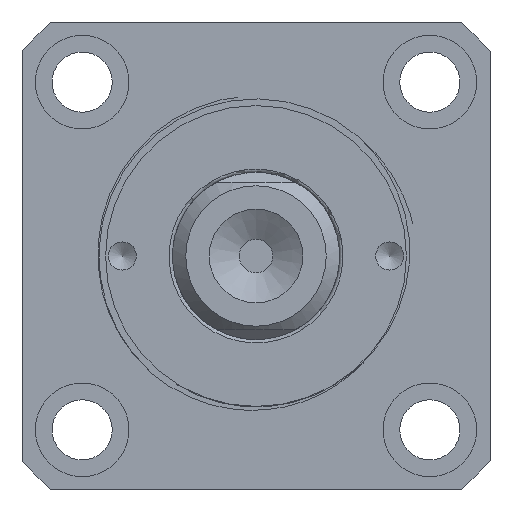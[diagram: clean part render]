
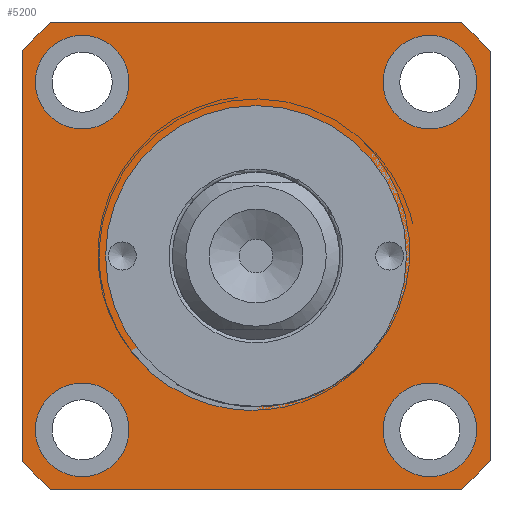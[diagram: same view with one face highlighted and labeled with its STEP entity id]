
A CAD part, front view. The second image highlights one B-rep face of the part: STEP entity #5200.
In plain terms, the highlighted planar face has unit normal (0, -1, 0).
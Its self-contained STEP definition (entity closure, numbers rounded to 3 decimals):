
#2544=PLANE('',#10564);
#3168=LINE('',#12718,#3934);
#3174=LINE('',#12946,#3940);
#3178=LINE('',#12955,#3944);
#3182=LINE('',#12964,#3948);
#3934=VECTOR('',#10988,1.);
#3940=VECTOR('',#11118,1.);
#3944=VECTOR('',#11124,1.);
#3948=VECTOR('',#11130,1.);
#5200=ADVANCED_FACE('',(#5688,#5689,#5690,#5691,#5692,#5693),#2544,.F.);
#5688=FACE_BOUND('',#5892,.T.);
#5689=FACE_BOUND('',#5893,.T.);
#5690=FACE_BOUND('',#5894,.T.);
#5691=FACE_BOUND('',#5895,.T.);
#5692=FACE_BOUND('',#5896,.T.);
#5693=FACE_BOUND('',#5897,.T.);
#5892=EDGE_LOOP('',(#6488));
#5893=EDGE_LOOP('',(#6489));
#5894=EDGE_LOOP('',(#6490));
#5895=EDGE_LOOP('',(#6491));
#5896=EDGE_LOOP('',(#6492));
#5897=EDGE_LOOP('',(#6493,#6494,#6495,#6496,#6497,#6498,#6499,#6500));
#6488=ORIENTED_EDGE('',*,*,#9322,.F.);
#6489=ORIENTED_EDGE('',*,*,#9332,.F.);
#6490=ORIENTED_EDGE('',*,*,#9334,.F.);
#6491=ORIENTED_EDGE('',*,*,#9336,.F.);
#6492=ORIENTED_EDGE('',*,*,#9338,.F.);
#6493=ORIENTED_EDGE('',*,*,#9364,.F.);
#6494=ORIENTED_EDGE('',*,*,#9351,.F.);
#6495=ORIENTED_EDGE('',*,*,#9365,.F.);
#6496=ORIENTED_EDGE('',*,*,#9303,.F.);
#6497=ORIENTED_EDGE('',*,*,#9366,.F.);
#6498=ORIENTED_EDGE('',*,*,#9359,.F.);
#6499=ORIENTED_EDGE('',*,*,#9367,.T.);
#6500=ORIENTED_EDGE('',*,*,#9355,.F.);
#8542=VERTEX_POINT('',#12713);
#8544=VERTEX_POINT('',#12717);
#8562=VERTEX_POINT('',#12875);
#8572=VERTEX_POINT('',#12900);
#8574=VERTEX_POINT('',#12905);
#8576=VERTEX_POINT('',#12910);
#8578=VERTEX_POINT('',#12915);
#8589=VERTEX_POINT('',#12941);
#8591=VERTEX_POINT('',#12945);
#8593=VERTEX_POINT('',#12950);
#8595=VERTEX_POINT('',#12954);
#8597=VERTEX_POINT('',#12959);
#8599=VERTEX_POINT('',#12963);
#9303=EDGE_CURVE('',#8544,#8542,#3168,.T.);
#9322=EDGE_CURVE('',#8562,#8562,#10383,.T.);
#9332=EDGE_CURVE('',#8572,#8572,#10393,.T.);
#9334=EDGE_CURVE('',#8574,#8574,#10395,.T.);
#9336=EDGE_CURVE('',#8576,#8576,#10397,.T.);
#9338=EDGE_CURVE('',#8578,#8578,#10399,.T.);
#9351=EDGE_CURVE('',#8591,#8589,#3174,.T.);
#9355=EDGE_CURVE('',#8595,#8593,#3178,.T.);
#9359=EDGE_CURVE('',#8599,#8597,#3182,.T.);
#9364=EDGE_CURVE('',#8589,#8595,#10413,.T.);
#9365=EDGE_CURVE('',#8542,#8591,#10414,.T.);
#9366=EDGE_CURVE('',#8597,#8544,#10415,.T.);
#9367=EDGE_CURVE('',#8599,#8593,#10416,.T.);
#10383=CIRCLE('',#10513,22.5);
#10393=CIRCLE('',#10528,7.);
#10395=CIRCLE('',#10531,7.);
#10397=CIRCLE('',#10534,7.);
#10399=CIRCLE('',#10537,7.);
#10413=CIRCLE('',#10560,46.5);
#10414=CIRCLE('',#10561,46.5);
#10415=CIRCLE('',#10562,46.5);
#10416=CIRCLE('',#10563,46.5);
#10513=AXIS2_PLACEMENT_3D('',#12874,#11037,#11038);
#10528=AXIS2_PLACEMENT_3D('',#12899,#11067,#11068);
#10531=AXIS2_PLACEMENT_3D('',#12904,#11073,#11074);
#10534=AXIS2_PLACEMENT_3D('',#12909,#11079,#11080);
#10537=AXIS2_PLACEMENT_3D('',#12914,#11085,#11086);
#10560=AXIS2_PLACEMENT_3D('',#12971,#11143,#11144);
#10561=AXIS2_PLACEMENT_3D('',#12972,#11145,#11146);
#10562=AXIS2_PLACEMENT_3D('',#12973,#11147,#11148);
#10563=AXIS2_PLACEMENT_3D('',#12974,#11149,#11150);
#10564=AXIS2_PLACEMENT_3D('',#12975,#11151,#11152);
#10988=DIRECTION('',(1.,0.,0.));
#11037=DIRECTION('',(0.,-1.,0.));
#11038=DIRECTION('',(-1.,0.,0.));
#11067=DIRECTION('',(0.,-1.,0.));
#11068=DIRECTION('',(-1.,0.,0.));
#11073=DIRECTION('',(0.,-1.,0.));
#11074=DIRECTION('',(-1.,0.,0.));
#11079=DIRECTION('',(0.,-1.,0.));
#11080=DIRECTION('',(-1.,0.,0.));
#11085=DIRECTION('',(0.,-1.,0.));
#11086=DIRECTION('',(-1.,0.,0.));
#11118=DIRECTION('',(0.,0.,-1.));
#11124=DIRECTION('',(-1.,0.,0.));
#11130=DIRECTION('',(0.,0.,1.));
#11143=DIRECTION('',(0.,1.,0.));
#11144=DIRECTION('',(1.,0.,0.));
#11145=DIRECTION('',(0.,1.,0.));
#11146=DIRECTION('',(1.,0.,0.));
#11147=DIRECTION('',(0.,1.,0.));
#11148=DIRECTION('',(1.,0.,0.));
#11149=DIRECTION('',(0.,-1.,0.));
#11150=DIRECTION('',(-1.,0.,0.));
#11151=DIRECTION('',(0.,1.,0.));
#11152=DIRECTION('',(-1.,0.,0.));
#12713=CARTESIAN_POINT('',(56.898,-59.397,35.));
#12717=CARTESIAN_POINT('',(-4.331,-59.397,35.));
#12718=CARTESIAN_POINT('',(-8.717,-59.397,35.));
#12874=CARTESIAN_POINT('',(26.283,-59.397,0.));
#12875=CARTESIAN_POINT('',(3.783,-59.397,0.));
#12899=CARTESIAN_POINT('',(52.283,-59.397,26.));
#12900=CARTESIAN_POINT('',(45.283,-59.397,26.));
#12904=CARTESIAN_POINT('',(0.283,-59.397,26.));
#12905=CARTESIAN_POINT('',(-6.717,-59.397,26.));
#12909=CARTESIAN_POINT('',(0.283,-59.397,-26.));
#12910=CARTESIAN_POINT('',(-6.717,-59.397,-26.));
#12914=CARTESIAN_POINT('',(52.283,-59.397,-26.));
#12915=CARTESIAN_POINT('',(45.283,-59.397,-26.));
#12941=CARTESIAN_POINT('',(61.283,-59.397,-30.615));
#12945=CARTESIAN_POINT('',(61.283,-59.397,30.615));
#12946=CARTESIAN_POINT('',(61.283,-59.397,-35.));
#12950=CARTESIAN_POINT('',(-4.331,-59.397,-35.));
#12954=CARTESIAN_POINT('',(56.898,-59.397,-35.));
#12955=CARTESIAN_POINT('',(-8.717,-59.397,-35.));
#12959=CARTESIAN_POINT('',(-8.717,-59.397,30.615));
#12963=CARTESIAN_POINT('',(-8.717,-59.397,-30.615));
#12964=CARTESIAN_POINT('',(-8.717,-59.397,-35.));
#12971=CARTESIAN_POINT('',(26.283,-59.397,0.));
#12972=CARTESIAN_POINT('',(26.283,-59.397,0.));
#12973=CARTESIAN_POINT('',(26.283,-59.397,0.));
#12974=CARTESIAN_POINT('',(26.283,-59.397,0.));
#12975=CARTESIAN_POINT('',(26.283,-59.397,0.));
